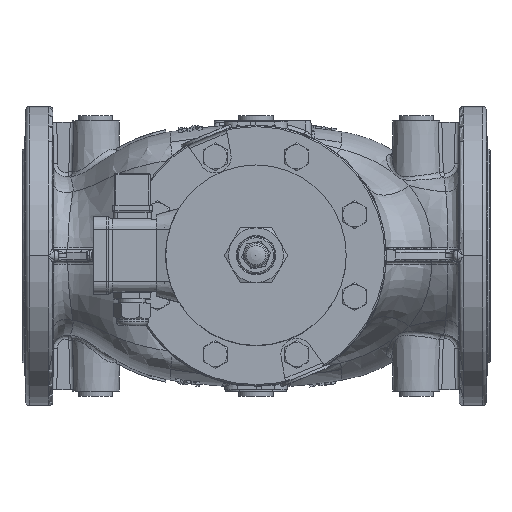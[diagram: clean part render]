
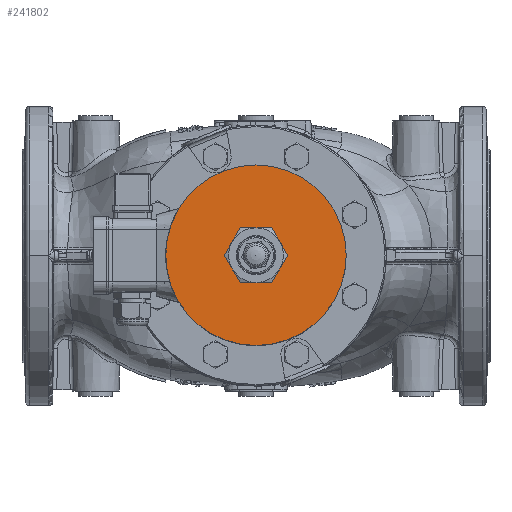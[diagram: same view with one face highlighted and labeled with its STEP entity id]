
A CAD part, top view. The second image highlights one B-rep face of the part: STEP entity #241802.
In plain terms, the highlighted planar face has unit normal (0, 0, 1).
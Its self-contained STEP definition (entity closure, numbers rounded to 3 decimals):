
#43396=CARTESIAN_POINT('',(0.,67.5,331.));
#43397=VERTEX_POINT('',#43396);
#43398=CARTESIAN_POINT('',(0.,0.,331.));
#43399=DIRECTION('',(0.0,0.0,1.0));
#43400=DIRECTION('',(0.0,1.0,0.0));
#43401=AXIS2_PLACEMENT_3D('',#43398,#43399,#43400);
#43402=CIRCLE('',#43401,67.5);
#43403=EDGE_CURVE('',#43397,#43397,#43402,.T.);
#45473=CARTESIAN_POINT('',(-17.754,10.25,331.0));
#45474=VERTEX_POINT('',#45473);
#45548=CARTESIAN_POINT('',(-17.754,-10.25,331.0));
#45549=VERTEX_POINT('',#45548);
#45623=CARTESIAN_POINT('',(0.,-20.5,331.0));
#45624=VERTEX_POINT('',#45623);
#45722=CARTESIAN_POINT('',(17.754,10.25,331.0));
#45723=VERTEX_POINT('',#45722);
#45795=CARTESIAN_POINT('',(17.754,-10.25,331.0));
#45796=VERTEX_POINT('',#45795);
#45861=CARTESIAN_POINT('',(0.,20.5,331.0));
#45862=VERTEX_POINT('',#45861);
#45899=CARTESIAN_POINT('',(0.,0.,331.0));
#45900=DIRECTION('',(0.0,0.0,-1.0));
#45901=DIRECTION('',(-1.0,0.0,0.0));
#45902=AXIS2_PLACEMENT_3D('',#45899,#45900,#45901);
#45903=CIRCLE('',#45902,20.5);
#45904=EDGE_CURVE('',#45549,#45474,#45903,.T.);
#45916=CARTESIAN_POINT('',(0.,0.,331.0));
#45917=DIRECTION('',(0.0,0.0,-1.0));
#45918=DIRECTION('',(-1.0,0.0,0.0));
#45919=AXIS2_PLACEMENT_3D('',#45916,#45917,#45918);
#45920=CIRCLE('',#45919,20.5);
#45921=EDGE_CURVE('',#45624,#45549,#45920,.T.);
#45934=CARTESIAN_POINT('',(0.,0.,331.0));
#45935=DIRECTION('',(0.0,0.0,-1.0));
#45936=DIRECTION('',(-1.0,0.0,0.0));
#45937=AXIS2_PLACEMENT_3D('',#45934,#45935,#45936);
#45938=CIRCLE('',#45937,20.5);
#45939=EDGE_CURVE('',#45474,#45862,#45938,.T.);
#45950=CARTESIAN_POINT('',(0.,0.,331.0));
#45951=DIRECTION('',(0.0,0.0,-1.0));
#45952=DIRECTION('',(-1.0,0.0,0.0));
#45953=AXIS2_PLACEMENT_3D('',#45950,#45951,#45952);
#45954=CIRCLE('',#45953,20.5);
#45955=EDGE_CURVE('',#45796,#45624,#45954,.T.);
#45968=CARTESIAN_POINT('',(0.,0.,331.0));
#45969=DIRECTION('',(0.0,0.0,-1.0));
#45970=DIRECTION('',(-1.0,0.0,0.0));
#45971=AXIS2_PLACEMENT_3D('',#45968,#45969,#45970);
#45972=CIRCLE('',#45971,20.5);
#45973=EDGE_CURVE('',#45862,#45723,#45972,.T.);
#45984=CARTESIAN_POINT('',(0.,0.,331.0));
#45985=DIRECTION('',(0.0,0.0,-1.0));
#45986=DIRECTION('',(-1.0,0.0,0.0));
#45987=AXIS2_PLACEMENT_3D('',#45984,#45985,#45986);
#45988=CIRCLE('',#45987,20.5);
#45989=EDGE_CURVE('',#45723,#45796,#45988,.T.);
#241786=CARTESIAN_POINT('',(-31.5,0.,331.));
#241787=DIRECTION('',(0.0,0.0,1.0));
#241788=DIRECTION('',(1.0,0.0,0.0));
#241789=AXIS2_PLACEMENT_3D('',#241786,#241787,#241788);
#241790=PLANE('',#241789);
#241791=ORIENTED_EDGE('',*,*,#43403,.T.);
#241792=EDGE_LOOP('',(#241791));
#241793=FACE_OUTER_BOUND('',#241792,.T.);
#241794=ORIENTED_EDGE('',*,*,#45989,.T.);
#241795=ORIENTED_EDGE('',*,*,#45955,.T.);
#241796=ORIENTED_EDGE('',*,*,#45921,.T.);
#241797=ORIENTED_EDGE('',*,*,#45904,.T.);
#241798=ORIENTED_EDGE('',*,*,#45939,.T.);
#241799=ORIENTED_EDGE('',*,*,#45973,.T.);
#241800=EDGE_LOOP('',(#241794,#241795,#241796,#241797,#241798,#241799));
#241801=FACE_BOUND('',#241800,.T.);
#241802=ADVANCED_FACE('',(#241793,#241801),#241790,.T.);
